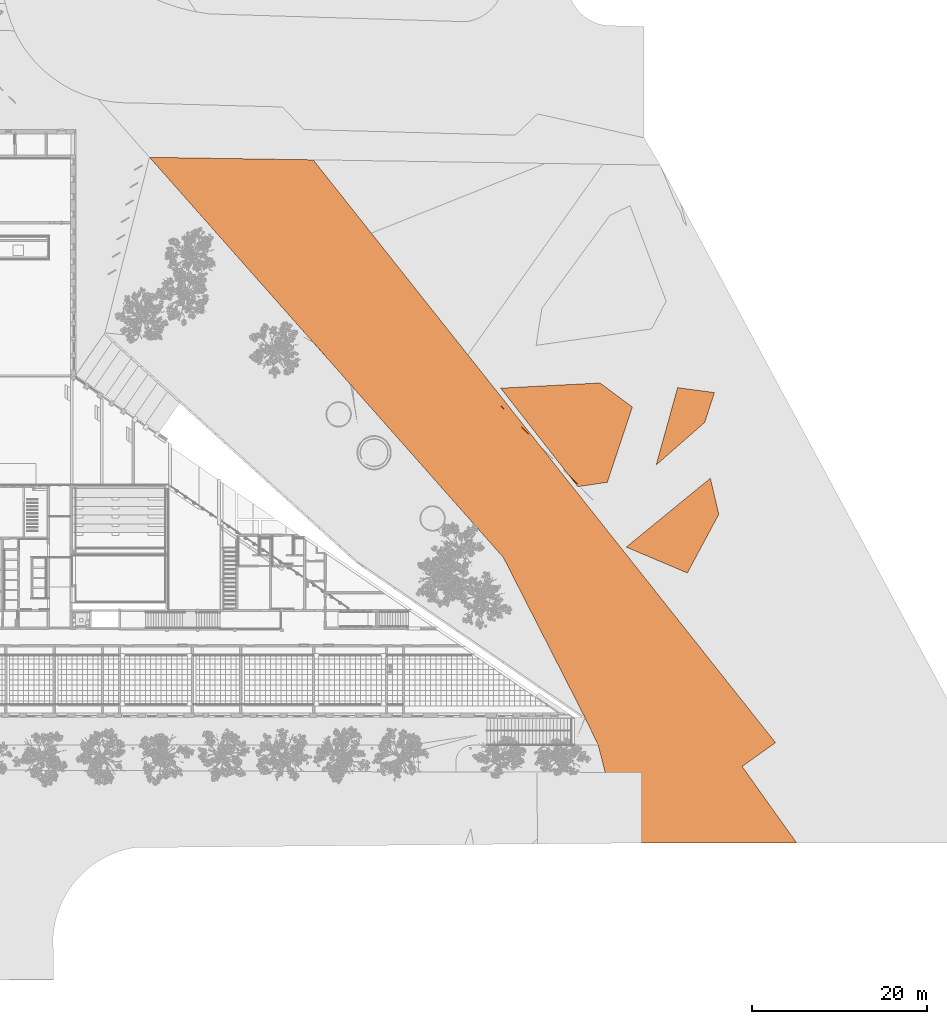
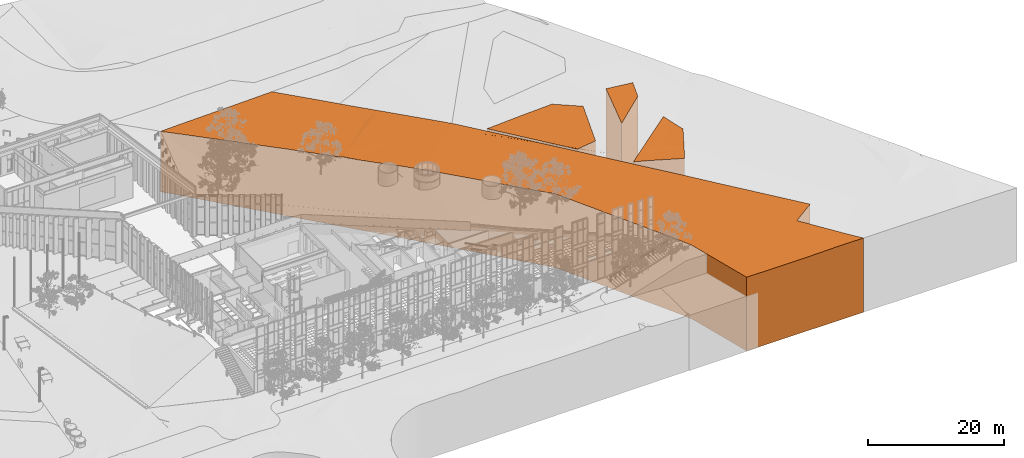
# One storey, part 242 of 246: 4 proxies.
"""IFC2X3 building model written with IfcOpenShell, lengths in millimetres."""

from ifc_helpers import new_model, entity, si_unit, converted_unit, derived_unit, money_unit, direction, frame, origin_with_axes, place, context, subcontext, project, spatial, faceted_brep, material, type_object, element, save


model = new_model("IFC2X3")

# Units and contexts
model_context = context("Model", 3, precision=0.01, world=origin_with_axes(), true_north=direction((0.0, 1.0)))
body_context = subcontext(model_context, "Body", "Model", "MODEL_VIEW")
ifc_project = project(units=[si_unit("LENGTHUNIT", "METRE", prefix="MILLI"), si_unit("AREAUNIT", "SQUARE_METRE"), si_unit("VOLUMEUNIT", "CUBIC_METRE"), converted_unit("PLANEANGLEUNIT", "DEGREE", entity("IfcPlaneAngleMeasure", 0.0174532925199), si_unit("PLANEANGLEUNIT", "RADIAN"), dimensions=[0, 0, 0, 0, 0, 0, 0]), si_unit("SOLIDANGLEUNIT", "STERADIAN"), money_unit("EUR"), converted_unit("TIMEUNIT", "Year", entity("IfcTimeMeasure", 31556926.0), si_unit("TIMEUNIT", "SECOND"), dimensions=[0, 0, 1, 0, 0, 0, 0]), si_unit("MASSUNIT", "GRAM", prefix="KILO"), si_unit("THERMODYNAMICTEMPERATUREUNIT", "DEGREE_CELSIUS"), si_unit("LUMINOUSINTENSITYUNIT", "LUMEN"), si_unit("ENERGYUNIT", "JOULE", prefix="MEGA"), derived_unit("THERMALCONDUCTANCEUNIT", [(si_unit("POWERUNIT", "WATT"), 1), (si_unit("LENGTHUNIT", "METRE"), -1), (si_unit("THERMODYNAMICTEMPERATUREUNIT", "KELVIN"), -1)]), derived_unit("SPECIFICHEATCAPACITYUNIT", [(si_unit("ENERGYUNIT", "JOULE"), 1), (si_unit("MASSUNIT", "GRAM", prefix="KILO"), -1), (si_unit("THERMODYNAMICTEMPERATUREUNIT", "KELVIN"), -1)]), derived_unit("MASSDENSITYUNIT", [(si_unit("MASSUNIT", "GRAM", prefix="KILO"), 1), (si_unit("VOLUMEUNIT", "CUBIC_METRE"), -1)])], contexts=[model_context])

# Site, building, storey
site_placement = place(None, origin_with_axes())
site = spatial("IfcSite", under=ifc_project, at=site_placement, Name="L.Koidula tn 11b", CompositionType="ELEMENT")
building_placement = place(site_placement, origin_with_axes())
building = spatial("IfcBuilding", under=site, at=building_placement, Name="Rakvere Riigigümnaasium", CompositionType="ELEMENT")
storey_placement = place(building_placement, origin_with_axes())
storey = spatial("IfcBuildingStorey", under=building, at=storey_placement, Name="1.korrus 0,00", CompositionType="ELEMENT", Elevation=0.0)

# Proxies
ifc_material_1 = material(Name="Roheala")
building_element_proxy_type_1 = type_object("IfcBuildingElementProxyType", Name="Roheala", PredefinedType="NOTDEFINED")
proxy_1_placement = place(storey_placement, frame((110431.201068, 21489.4465441, -10000.0), z_axis=(0.0, 0.0, 1.0), x_axis=(1.0, 0.0, 0.0)))
element("IfcBuildingElementProxy", 1, at=proxy_1_placement, inside=storey, type_object=building_element_proxy_type_1, material=ifc_material_1, Name="Planeeritav väljak", context=body_context, shape_type="Brep", body=[
    faceted_brep([(10172.0832011, 8416.1057264, 13209.5625216), (10352.85317, 7638.48603631, 13200.0), (10571.6731304, 6697.18637876, 13200.0), (10571.6731304, 6697.18637876, 0.0), (9612.56187153, 10823.0033191, 0.0), (9612.56187153, 10823.0033191, 13253.1529359), (9996.46885305, 9171.54743925, 13220.7478147), (5264.70156098, 4995.09307657, 13300.0), (8334.90981203, 2523.22583403, 13211.6158739), (9455.24705808, 4613.85537156, 13200.0), (8246.38612231, 2358.03428912, 13206.4442024), (6982.75065073, 0.0, 13241.5970651), (6982.75065073, 0.0, 0.0), (0.0, 2956.61176182, 0.0), (8577.5011032, 9975.96655636, 13263.1385572), (0.0, 2956.61176182, 13281.4622466), (1155.7373486, 3902.40359577, 13296.3466873), (1269.73452881, 3995.69261362, 13300.0), (1367.39822927, 4075.61521064, 13300.0), (1817.84886806, 4444.23922048, 13290.6406482), (2204.35782449, 4760.53687685, 13300.0), (6450.61216502, 8235.43771397, 13300.0), (2285.22181803, 1989.01116379, 13300.0), (1255.97704349, 2424.81037221, 13289.3700414), (1700.09605155, 2236.76306127, 13300.0)], [[[0, 1, 2, 3, 4, 5, 6]], [[1, 0, 7, 8, 9]], [[9, 2, 1]], [[10, 11, 12, 3, 2, 9, 8]], [[13, 4, 3, 12]], [[14, 5, 4, 13, 15, 16, 17, 18, 19, 20, 21]], [[6, 5, 14]], [[0, 6, 14, 21, 7]], [[10, 8, 7, 20, 19]], [[11, 10, 19, 18, 22]], [[23, 15, 13, 12, 11, 22, 24]], [[15, 23, 16]], [[23, 24, 17, 16]], [[24, 22, 18, 17]], [[21, 20, 7]]]),
])
proxy_2_placement = place(storey_placement, frame((113846.752178, 33804.0105132, -10000.0), z_axis=(0.0, 0.0, 1.0), x_axis=(1.0, 0.0, 0.0)))
element("IfcBuildingElementProxy", 2, at=proxy_2_placement, inside=storey, type_object=building_element_proxy_type_1, material=ifc_material_1, Name="Planeeritav väljak", context=body_context, shape_type="Brep", body=[
    faceted_brep([(2449.52381111, 8845.26692331, 13276.0697579), (6127.90771105, 8351.59193527, 13244.3285366), (6659.78227207, 8280.20918276, 13239.5885536), (6659.78227207, 8280.20918276, 0.0), (2449.52381111, 8845.26692331, 0.0), (1361.18772369, 4915.26912053, 13300.0), (2445.43893709, 2146.69879454, 13300.0), (3277.39867844, 2877.0245233, 13289.8176605), (5557.99292063, 4879.01640963, 13261.5783108), (5557.99292063, 4879.01640963, 0.0), (0.0, 0.0, 0.0), (0.0, 0.0, 13300.0)], [[[0, 1, 2, 3, 4]], [[1, 0, 5, 6, 7]], [[8, 2, 1, 7]], [[2, 8, 9, 3]], [[10, 4, 3, 9]], [[5, 0, 4, 10, 11]], [[11, 6, 5]], [[6, 11, 10, 9, 8, 7]]]),
])
proxy_3_placement = place(storey_placement, frame((96107.965806, 31335.8224919, -10000.0), z_axis=(0.0, 0.0, 1.0), x_axis=(1.0, 0.0, 0.0)))
element("IfcBuildingElementProxy", 3, at=proxy_3_placement, inside=storey, type_object=building_element_proxy_type_1, material=ifc_material_1, Name="Planeeritav väljak", context=body_context, shape_type="Brep", body=[
    faceted_brep([(11336.2612864, 11841.9427359, 13300.0), (15041.6865279, 9090.43671936, 13300.0), (15041.6865279, 9090.43671936, 0.0), (11336.2612864, 11841.9427359, 0.0), (12179.2028695, 506.602344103, 13300.0), (6080.7508675, 11566.6300871, 13300.0), (9414.92698019, 91.8442144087, 13300.0), (12179.2028695, 506.602344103, 0.0), (8802.80456645, 0.0, 0.0), (0.0, 11248.0867878, 0.0), (0.0, 11248.0867878, 13226.1230447), (9038.01157894, 35.2909855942, 13295.2927448), (7732.76202768, 1367.28371644, 13284.3042793), (9004.79180822, 30.3066169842, 13280.0904646), (8802.80456645, 0.0, 13277.7007211), (7868.6773724, 1193.6132025, 13272.0280896)], [[[0, 1, 2, 3]], [[4, 1, 0, 5, 6]], [[1, 4, 7, 2]], [[3, 2, 7, 8, 9]], [[5, 0, 3, 9, 10]], [[11, 6, 5, 10, 12]], [[13, 14, 8, 7, 4, 6, 11]], [[12, 10, 9, 8, 14, 15]], [[13, 11, 12, 15]], [[14, 13, 15]]]),
])
ifc_material_2 = material(Name="Sillutiskivi-1")
building_element_proxy_type_2 = type_object("IfcBuildingElementProxyType", Name="Sillutiskivi-1", PredefinedType="NOTDEFINED")
proxy_4_placement = place(storey_placement, frame((56029.1880008, -9321.98565616, -10000.0), z_axis=(0.0, 0.0, 1.0), x_axis=(1.0, 0.0, 0.0)))
element("IfcBuildingElementProxy", 4, at=proxy_4_placement, inside=storey, type_object=building_element_proxy_type_2, material=ifc_material_2, Name="Planeeritav väljak", context=body_context, shape_type="Brep", body=[
    faceted_brep([(62135.1487929, 23191.9731449, 13281.3378905), (65265.2515557, 19246.625681, 13274.4718834), (69183.0370089, 14308.4411953, 13274.7703783), (70433.4645812, 12732.3359919, 13271.6572792), (71448.9059079, 11452.4199103, 13263.6617882), (71448.9059079, 11452.4199103, 0.0), (18683.2617361, 77961.0351834, 0.0), (18683.2617361, 77961.0351834, 11546.7642331), (23679.066137, 71664.058465, 11999.0217274), (23689.6282243, 71650.7454503, 12000.0), (23693.989543, 71645.2482129, 12000.2655592), (27247.7630345, 67165.8837018, 12300.0), (29163.5834128, 64751.0821301, 12499.8438142), (29164.0109232, 64750.5432733, 12500.0), (32304.4448345, 60792.1738821, 12800.0), (33323.4289035, 59507.7923404, 12900.0), (34336.291868, 58231.1261632, 12999.3813461), (34346.4129996, 58218.3689524, 13000.0), (35364.7644253, 56934.7848278, 13099.8303608), (35367.0189671, 56931.9430838, 13100.0), (36691.2325773, 55262.8340465, 13199.6382264), (36731.2210715, 55212.4304285, 13200.0), (37004.2539761, 54868.2852808, 13200.0), (38249.2667724, 53299.0051483, 13209.0731798), (44565.7097067, 45337.4256091, 13256.978706), (44664.3020914, 45213.1545405, 13248.7293701), (50793.6484487, 37487.4014458, 13286.3792046), (52397.2150803, 35466.1810506, 13273.3417938), (55797.4630168, 31180.3282881, 13279.6627785), (56898.763595, 29792.1906541, 13300.0), (59393.7538567, 26647.372657, 13300.0), (61904.4989921, 20939.3792863, 13300.0), (67294.3495795, 14308.4411953, 13298.7610416), (67346.4606142, 14073.8325254, 13300.0), (68144.8271175, 9096.45670353, 13300.0), (67635.8271125, 8733.51581743, 13300.0), (67635.8271125, 8733.51581743, 0.0), (40378.3365465, 32590.9461954, 0.0), (0.0, 78250.6048619, 0.0), (73863.2336445, 0.0, 0.0), (54078.9283048, 0.0, 0.0), (51206.2795274, 11158.4407871, 0.0), (49698.6289086, 14308.441195, 0.0), (17615.9034531, 77977.578044, 11503.3948841), (0.0, 78250.6048619, 10809.8860905), (1558.72670031, 78226.4463399, 10883.6547223), (1814.94358877, 78222.4752645, 10900.0), (1832.05630887, 78222.2100364, 10900.0), (1845.68357375, 78221.998829, 10900.0), (1910.93929108, 78220.9874383, 10903.004681), (2370.1196141, 78213.8706565, 10935.4999579), (6734.92193037, 78146.2210982, 11087.859323), (6758.28204572, 78145.8590425, 11088.8327272), (7048.59656319, 78141.3594919, 11100.0), (7069.76246346, 78141.0314441, 11100.0), (14087.8334465, 78032.2591865, 11371.2945472), (14428.9743846, 78026.9718832, 11384.4421884), (14711.3144153, 78022.5959282, 11391.95987), (14836.2632548, 78020.6593609, 11400.1007428), (14847.6524178, 78020.4828416, 11400.4165283), (14850.7984709, 78020.4340813, 11400.4165283), (16688.3866792, 77991.9535175, 11471.5185967), (17217.0110542, 77983.7604304, 11491.9377779), (17311.4804075, 77982.296261, 11494.8002906), (17543.062571, 77978.7069963, 11500.0), (17550.9457676, 77978.5848156, 11500.3159761), (17303.8638926, 77750.7640114, 11500.0), (19314.8121302, 68530.2025518, 12000.0), (26431.7238484, 63882.1175185, 12300.0), (19792.6745954, 58065.997821, 12500.0), (26945.6552584, 56969.8585958, 12800.0), (30652.7475312, 57602.8497989, 12900.0), (25174.1331748, 50473.6317607, 12900.0), (26992.8370182, 48649.2985418, 13000.0), (31850.8222524, 51962.0586403, 13100.0), (37797.5735493, 52244.2337013, 13200.0), (43846.3925171, 35407.3199787, 13200.0), (56942.0492178, 14308.4411953, 13200.0), (59486.551259, 19215.6498694, 13300.0), (62319.3167803, 14111.2963132, 13300.0), (69578.6110966, 157.602577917, 13300.0), (68367.6696305, 7707.15626089, 13300.0), (64564.6004856, 12090.2357472, 13300.0), (71954.3912414, 2677.02216569, 13272.5646203), (73863.2336445, 0.0, 13294.6205032), (198.26164811, 78026.4113969, 10813.6507427), (40378.3365465, 32590.9461954, 13200.9936361), (40371.658055, 32598.4982064, 13200.8920537), (40319.8661212, 32657.0643144, 13198.2012199), (40186.2046784, 32808.2081301, 13194.4317069), (37301.68527, 36070.0109399, 13108.2279982), (33901.1288757, 39915.3462736, 13100.5033604), (33822.1076789, 40004.7031214, 13100.0), (33769.8794857, 40063.7625498, 13100.0), (27173.0329425, 47523.4497782, 13000.3232454), (27170.5493387, 47526.2582272, 12999.2421245), (26775.7012887, 47972.7507955, 12968.7342942), (25780.6919183, 49097.9033429, 12900.0), (25762.0631258, 49118.9687056, 12897.4796466), (24931.9006335, 50057.7130739, 12898.8920493), (24915.7491751, 50075.9770774, 12898.0069692), (24623.1617086, 50406.833794, 12839.0899258), (23198.0219326, 52018.3760538, 12798.9997722), (22962.7301175, 52284.4430808, 12700.0), (22961.6188465, 52285.6997016, 12698.3961426), (22890.3103991, 52366.3350038, 12694.8601348), (20144.768317, 55470.9828185, 12500.0), (20051.6945502, 55576.2302553, 12493.3942492), (18643.9187574, 57168.1373935, 12495.7141257), (18035.4674428, 57856.1716642, 12346.8244984), (17326.8065163, 58657.5225564, 12300.0), (14508.8447158, 61844.0622941, 12100.0), (14479.9290854, 61876.7599713, 12096.9820529), (13073.4450261, 63467.2064225, 11998.625368), (11996.9326164, 64684.5222751, 11900.0), (9779.21406229, 67192.3093921, 11700.0), (7561.49550847, 69700.0965088, 11500.0), (7558.52524194, 69703.4552741, 11499.7321331), (7488.7827185, 69782.3198358, 11499.8786858), (6370.06941886, 71047.356283, 11399.9666642), (5343.77695492, 72207.8836252, 11300.0), (3126.05840083, 74715.6707422, 11100.0), (3124.2455134, 74717.720748, 11099.8365088), (3042.88083887, 74809.7275908, 11100.0), (3015.09126099, 74841.1519324, 11100.0), (3013.46619756, 74842.9895476, 11099.8667476), (3012.87975266, 74843.6526971, 11099.8021191), (2424.80698671, 75508.6429879, 11044.2157827), (908.339848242, 77223.4578576, 10900.0), (899.457908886, 77233.5015184, 10899.1990021), (833.506366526, 77308.0792542, 10900.0), (779.899529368, 77368.6976475, 10900.0), (779.883191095, 77368.7161228, 10900.0), (64354.2161875, 0.0, 13200.0), (55521.1509413, 0.0, 13200.0), (54078.9283048, 0.0, 13200.0), (70502.2500274, 0.0, 13300.0), (69511.4430313, 0.0, 13300.0), (69371.6637643, 0.0, 13296.7818621), (51614.4234144, 9573.05748799, 13200.0), (51493.9919919, 10040.8581141, 13197.3430826), (51206.2795274, 11158.4407871, 13199.3281006), (49716.1738245, 14271.7838347, 13199.7556176), (49698.6289086, 14308.4411953, 13180.0), (40378.6373128, 32590.3562182, 13201.0065205), (49681.8919691, 14341.2720518, 13199.4581981), (47991.2213855, 17657.658727, 13198.7639244), (47881.0749744, 17873.7197937, 13202.2434204), (47671.2199617, 18285.3673228, 13203.2443887), (901.631249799, 77236.5840853, 10900.0), (7025.98335988, 78094.7983119, 11100.0), (7026.00841459, 78098.781598, 11100.0), (7030.69795663, 78098.6228057, 11100.0), (7025.73978889, 78056.0745142, 11100.0), (14735.5724086, 77837.7287098, 11400.0), (14750.451249, 77837.2248994, 11400.4165283), (14750.4011726, 77829.1562456, 11400.4165283), (9771.92089674, 67206.5793999, 11700.0), (20138.9105064, 55500.5453897, 12500.0), (23355.4293314, 52297.9649797, 12800.0), (25771.4153001, 49144.7195864, 12900.0), (27177.2099899, 47534.2066231, 13000.0), (33804.4713737, 40045.588158, 13100.0), (40390.8944478, 32612.368046, 13200.0), (47956.1764022, 17878.2888033, 13200.0), (49730.9310812, 14308.4411953, 13200.0), (51949.1080381, 9846.66752184, 13200.0), (64781.3392726, 1678.28186876, 13200.0), (60968.1093621, 14308.4411953, 13272.0185568), (24931.3581523, 50074.1821887, 12900.0), (23196.3348736, 52036.1991177, 12800.0), (22955.1629032, 52322.6324876, 12700.0), (18669.0061781, 57154.4750008, 12500.0), (17322.6581096, 58678.4582909, 12300.0), (14506.4057128, 61856.3711931, 12100.0), (13077.9281715, 63470.8256326, 12000.0), (11989.4933086, 64699.0782288, 11900.0), (7554.348485, 69714.080571, 11500.0), (7486.85016487, 69787.1762634, 11500.0), (6368.63456357, 71050.4463903, 11400.0), (5336.77607336, 72221.5817421, 11300.0), (3119.2036615, 74729.0829133, 11100.0)], [[[0, 1, 2, 3, 4, 5, 6, 7, 8, 9, 10, 11, 12, 13, 14, 15, 16, 17, 18, 19, 20, 21, 22, 23, 24, 25, 26, 27, 28, 29, 30]], [[1, 0, 31]], [[32, 2, 1, 31]], [[2, 32, 33, 3]], [[33, 34, 4, 3]], [[4, 34, 35, 36, 5]], [[37, 38, 6, 5, 36, 39, 40, 41, 42]], [[43, 7, 6, 38, 44, 45, 46, 47, 48, 49, 50, 51, 52, 53, 54, 55, 56, 57, 58, 59, 60, 61, 62, 63, 64, 65]], [[8, 7, 43, 66]], [[9, 8, 66, 67]], [[10, 9, 67, 68]], [[11, 10, 68]], [[12, 11, 68]], [[13, 12, 68, 69]], [[14, 13, 69, 70]], [[15, 14, 70, 71]], [[16, 15, 71]], [[17, 16, 71, 72, 73]], [[18, 17, 73]], [[19, 18, 73, 74]], [[20, 19, 74]], [[21, 20, 74, 75]], [[22, 21, 75]], [[23, 22, 75]], [[24, 23, 75]], [[25, 24, 75]], [[26, 25, 75, 76]], [[27, 26, 76]], [[28, 27, 76, 77]], [[29, 28, 77, 78]], [[30, 29, 78, 31]], [[0, 30, 31]], [[32, 31, 33]], [[78, 79, 80, 81, 35, 34, 33, 82]], [[35, 81, 83, 84, 39, 36]], [[85, 44, 38, 37, 86, 87, 88, 89, 90, 91, 92, 93, 94, 95, 96, 97, 98, 99, 100, 101, 102, 103, 104, 105, 106, 107, 108, 109, 110, 111, 112, 113, 114, 115, 116, 117, 118, 119, 120, 121, 122, 123, 124, 125, 126, 127, 128, 129, 130, 131, 132]], [[133, 134, 135, 40, 39, 84, 136, 137, 138]], [[139, 140, 141, 41, 40, 135]], [[141, 142, 143, 42, 41]], [[144, 86, 37, 42, 143, 145, 146, 147, 148]], [[45, 44, 85]], [[46, 45, 85, 132]], [[47, 46, 132, 131]], [[48, 47, 131, 130, 149]], [[127, 126, 49, 48, 149]], [[126, 125, 50, 49]], [[51, 50, 125, 124, 150]], [[52, 51, 150, 151]], [[53, 52, 151]], [[151, 152, 150, 153, 54, 53]], [[55, 54, 153, 154]], [[56, 55, 154]], [[57, 56, 154]], [[58, 57, 154]], [[59, 58, 154, 155]], [[60, 59, 155, 156]], [[61, 60, 156, 66]], [[62, 61, 66]], [[63, 62, 66]], [[64, 63, 66]], [[65, 64, 66]], [[43, 65, 66]], [[157, 67, 66]], [[69, 68, 67]], [[70, 69, 158]], [[71, 70, 159, 72]], [[73, 72, 160]], [[74, 73, 161]], [[162, 75, 74]], [[76, 75, 162]], [[77, 76, 163, 164, 165, 166, 134, 133, 167]], [[168, 78, 77, 167]], [[31, 78, 82, 33]], [[78, 168, 79]], [[168, 80, 79]], [[80, 83, 81]], [[80, 136, 84, 83]], [[86, 144, 163, 87]], [[88, 87, 163]], [[89, 88, 163]], [[90, 89, 163, 76]], [[91, 90, 76]], [[92, 91, 76, 162]], [[93, 92, 162]], [[94, 93, 162, 161]], [[95, 94, 161]], [[96, 95, 161, 73]], [[97, 96, 73, 160]], [[98, 97, 160]], [[99, 98, 160, 169]], [[100, 99, 169]], [[101, 100, 169, 72]], [[102, 101, 72, 170]], [[103, 102, 170, 171]], [[104, 103, 171]], [[105, 104, 171]], [[106, 105, 171, 158]], [[107, 106, 158]], [[108, 107, 158, 172]], [[109, 108, 172, 69]], [[110, 109, 69, 173]], [[111, 110, 173, 174]], [[112, 111, 174]], [[113, 112, 174, 175]], [[114, 113, 175, 176]], [[115, 114, 176, 157]], [[116, 115, 157, 177]], [[117, 116, 177]], [[118, 117, 177, 178]], [[119, 118, 178, 179]], [[120, 119, 179, 180]], [[121, 120, 180, 181]], [[122, 121, 181]], [[123, 122, 181]], [[124, 123, 181, 153, 150]], [[128, 127, 149]], [[129, 128, 149]], [[130, 129, 149]], [[139, 135, 134, 166]], [[80, 137, 136]], [[80, 138, 137]], [[167, 133, 138, 80]], [[166, 140, 139]], [[142, 141, 140, 166, 165]], [[165, 143, 142]], [[143, 165, 145]], [[146, 145, 165, 164]], [[147, 146, 164]], [[148, 147, 164]], [[144, 148, 164, 163]], [[152, 151, 150]], [[179, 154, 153]], [[156, 155, 154]], [[178, 66, 156]], [[67, 157, 176]], [[66, 177, 157]], [[67, 173, 69]], [[69, 172, 158]], [[159, 70, 158]], [[159, 170, 72]], [[160, 72, 169]], [[162, 74, 161]], [[167, 80, 168]], [[170, 159, 171]], [[159, 158, 171]], [[173, 67, 174]], [[174, 67, 175]], [[175, 67, 176]], [[66, 178, 177]], [[154, 179, 178]], [[153, 180, 179]], [[153, 181, 180]], [[156, 154, 178]]]),
])

save(model, "model.ifc")
